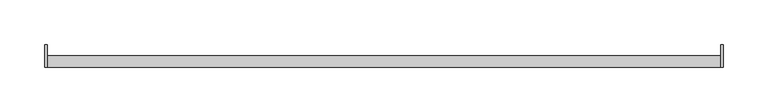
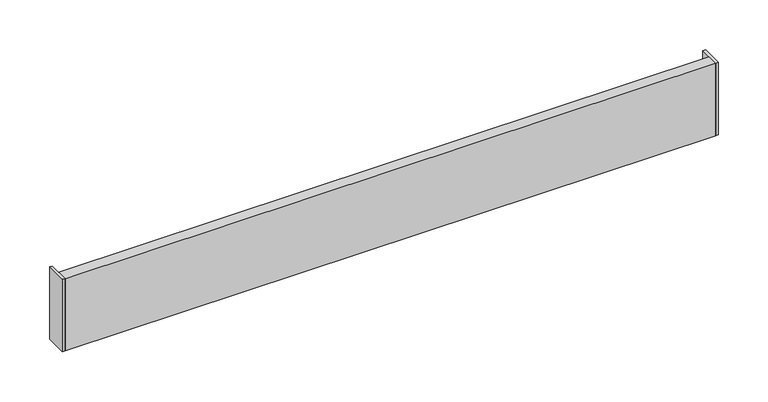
"""IFC4 building model written with IfcOpenShell, lengths in millimetres: furniture geometry."""

from ifc_helpers import new_model, si_unit, frame, origin, place, context, project, spatial, polyline, outline, extrude, source, transform, mapped, element, save


def furniture_4d9edb30(model_context):
    return source(origin(), model_context, "Body", "SweptSolid", [
        extrude(outline(polyline([(-377.825, 12.6999996), (-377.825, -12.7000004), (-381.0, -12.7000004), (-381.0, 12.6999996), (-377.825, 12.6999996)])), frame((0.0, 0.0, 825.5), z_axis=(0.0, 0.0, 1.0), x_axis=(1.0, 0.0, 0.0)), (0.0, 0.0, 1.0), 88.9),
        extrude(outline(polyline([(381.0, 12.6999996), (381.0, -12.7000004), (377.825, -12.7000004), (377.825, 12.6999996), (381.0, 12.6999996)])), frame((0.0, 0.0, 825.5), z_axis=(0.0, 0.0, 1.0), x_axis=(1.0, 0.0, 0.0)), (0.0, 0.0, 1.0), 88.9),
        extrude(outline(polyline([(377.825, 0.0), (377.825, -12.7000004), (-377.825, -12.7000004), (-377.825, 0.0), (377.825, 0.0)])), frame((0.0, 0.0, 825.5), z_axis=(0.0, 0.0, 1.0), x_axis=(1.0, 0.0, 0.0)), (0.0, 0.0, 1.0), 88.9),
        extrude(outline(polyline([(-12.7000004, 901.6999966), (-12.7000004, 914.4), (0.0, 914.4), (0.0, 825.5), (-12.7000004, 825.5), (-12.7000004, 850.8999966), (-3.1750002, 850.8999966), (-3.1750002, 863.5999966), (-12.7000004, 863.5999966), (-12.7000004, 888.9999966), (-3.1750002, 888.9999966), (-3.1750002, 901.6999966), (-12.7000004, 901.6999966)])), frame((-377.825, 0.0, 0.0), z_axis=(1.0, 0.0, 0.0), x_axis=(0.0, 1.0, 0.0)), (0.0, 0.0, 1.0), 755.65),
        extrude(outline(polyline([(-12.7000004, 914.4), (0.0, 914.4), (0.0, 901.6999966), (12.6999996, 901.6999966), (12.6999996, 838.199997), (0.0, 838.199997), (0.0, 825.5), (-12.7000004, 825.5), (-12.7000004, 914.4)])), frame((-381.0, 0.0, 0.0), z_axis=(1.0, 0.0, 0.0), x_axis=(0.0, 1.0, 0.0)), (0.0, 0.0, 1.0), 3.175),
        extrude(outline(polyline([(-12.7000004, 914.4), (0.0, 914.4), (0.0, 901.6999966), (12.6999996, 901.6999966), (12.6999996, 838.199997), (0.0, 838.199997), (0.0, 825.5), (-12.7000004, 825.5), (-12.7000004, 914.4)])), frame((377.825, 0.0, 0.0), z_axis=(1.0, 0.0, 0.0), x_axis=(0.0, 1.0, 0.0)), (0.0, 0.0, 1.0), 3.175),
    ])


if __name__ == "__main__":
    model = new_model("IFC4")
    model_context = context("Model", 3, world=origin())
    ifc_project = project(units=[si_unit("LENGTHUNIT", "METRE", prefix="MILLI")], contexts=[model_context])
    site = spatial("IfcSite", under=ifc_project)
    building = spatial("IfcBuilding", under=site)
    placement = place(None, origin())
    furniture_shape = furniture_4d9edb30(model_context)
    element("IfcFurniture", 1, ObjectType="HermanMiller_ActionOffice_A3610_ToolBar : 4\"H x 30\"W", at=placement, inside=building, context=model_context, shape_type="MappedRepresentation", body=[
        mapped(furniture_shape, transform((0.0, 0.0, 0.0), x_axis=(1.0, 0.0, 0.0), y_axis=(0.0, 1.0, 0.0), z_axis=(0.0, 0.0, 1.0))),
    ])
    save(model, "model.ifc")
